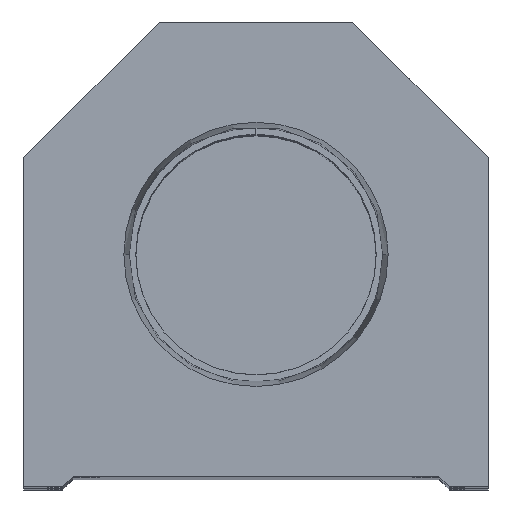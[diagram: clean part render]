
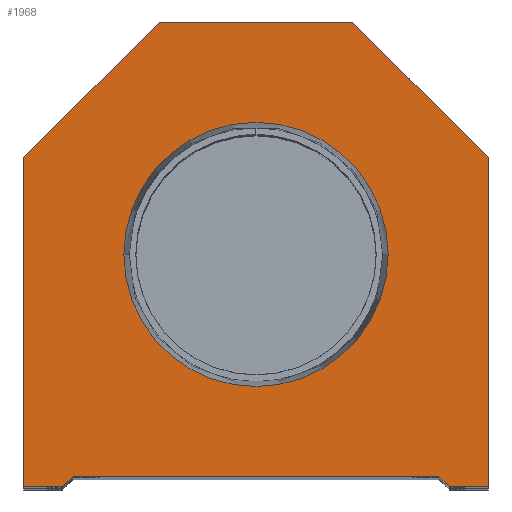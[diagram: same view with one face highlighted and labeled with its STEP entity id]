
A CAD part, top view. The second image highlights one B-rep face of the part: STEP entity #1968.
In plain terms, the highlighted planar face has unit normal (0, 0, 1).
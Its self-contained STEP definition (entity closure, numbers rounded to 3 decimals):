
#375 = LINE ( 'NONE', #10850, #8856 ) ;
#743 = CARTESIAN_POINT ( 'NONE',  ( -22.25, 31.5, 0. ) ) ;
#896 = DIRECTION ( 'NONE',  ( 1., 0., 0. ) ) ;
#1322 = EDGE_CURVE ( 'NONE', #1882, #2240, #3743, .T. ) ;
#1632 = EDGE_CURVE ( 'NONE', #2240, #1882, #15038, .T. ) ;
#1823 = EDGE_CURVE ( 'NONE', #4717, #6277, #10251, .T. ) ;
#1868 = EDGE_CURVE ( 'NONE', #7242, #13538, #375, .T. ) ;
#1882 = VERTEX_POINT ( 'NONE', #6867 ) ;
#1941 = LINE ( 'NONE', #15012, #15299 ) ;
#1955 = CARTESIAN_POINT ( 'NONE',  ( -9.25, 44.5, 0. ) ) ;
#1968 = ADVANCED_FACE ( 'NONE', ( #16328, #12441 ), #14736, .T. ) ;
#2240 = VERTEX_POINT ( 'NONE', #4300 ) ;
#2946 = DIRECTION ( 'NONE',  ( -1., 0., 0. ) ) ;
#3023 = CARTESIAN_POINT ( 'NONE',  ( -17.5, 1., 0. ) ) ;
#3508 = AXIS2_PLACEMENT_3D ( 'NONE', #4240, #8296, #8037 ) ;
#3743 = CIRCLE ( 'NONE', #6280, 12.647 ) ;
#4240 = CARTESIAN_POINT ( 'NONE',  ( 0., 0., 0. ) ) ;
#4300 = CARTESIAN_POINT ( 'NONE',  ( 12.647, 22.25, 0. ) ) ;
#4406 = CARTESIAN_POINT ( 'NONE',  ( 0., 22.25, 0. ) ) ;
#4441 = EDGE_LOOP ( 'NONE', ( #15684, #13220, #6502, #13196, #14832, #6776, #13710, #11531, #5178, #7523 ) ) ;
#4580 = LINE ( 'NONE', #7402, #8414 ) ;
#4717 = VERTEX_POINT ( 'NONE', #6604 ) ;
#4749 = DIRECTION ( 'NONE',  ( 0., 0., 1. ) ) ;
#5178 = ORIENTED_EDGE ( 'NONE', *, *, #14239, .T. ) ;
#5725 = EDGE_CURVE ( 'NONE', #7078, #5857, #4580, .T. ) ;
#5731 = AXIS2_PLACEMENT_3D ( 'NONE', #16825, #4749, #6395 ) ;
#5830 = EDGE_CURVE ( 'NONE', #6277, #12757, #6488, .T. ) ;
#5857 = VERTEX_POINT ( 'NONE', #14454 ) ;
#5989 = CARTESIAN_POINT ( 'NONE',  ( -18.5, 0., 0. ) ) ;
#6011 = LINE ( 'NONE', #743, #7105 ) ;
#6090 = DIRECTION ( 'NONE',  ( -0.707, -0.707, 0. ) ) ;
#6152 = CARTESIAN_POINT ( 'NONE',  ( 9.25, 44.5, 0. ) ) ;
#6208 = LINE ( 'NONE', #11596, #8818 ) ;
#6277 = VERTEX_POINT ( 'NONE', #9995 ) ;
#6280 = AXIS2_PLACEMENT_3D ( 'NONE', #4406, #12619, #9784 ) ;
#6395 = DIRECTION ( 'NONE',  ( 1., 0., 0. ) ) ;
#6488 = LINE ( 'NONE', #17278, #10937 ) ;
#6502 = ORIENTED_EDGE ( 'NONE', *, *, #10007, .T. ) ;
#6604 = CARTESIAN_POINT ( 'NONE',  ( 22.25, 0., 0. ) ) ;
#6776 = ORIENTED_EDGE ( 'NONE', *, *, #1823, .T. ) ;
#6867 = CARTESIAN_POINT ( 'NONE',  ( -12.647, 22.25, 0. ) ) ;
#7031 = VERTEX_POINT ( 'NONE', #1955 ) ;
#7072 = CARTESIAN_POINT ( 'NONE',  ( 9.25, 44.5, 0. ) ) ;
#7078 = VERTEX_POINT ( 'NONE', #9893 ) ;
#7105 = VECTOR ( 'NONE', #6090, 1000. ) ;
#7242 = VERTEX_POINT ( 'NONE', #13377 ) ;
#7354 = CARTESIAN_POINT ( 'NONE',  ( 22.25, 0., 0. ) ) ;
#7402 = CARTESIAN_POINT ( 'NONE',  ( 9.25, 9.25, 0. ) ) ;
#7523 = ORIENTED_EDGE ( 'NONE', *, *, #1868, .T. ) ;
#8037 = DIRECTION ( 'NONE',  ( 1., 0., 0. ) ) ;
#8296 = DIRECTION ( 'NONE',  ( 0., 0., 1. ) ) ;
#8400 = DIRECTION ( 'NONE',  ( 1., 0., 0. ) ) ;
#8414 = VECTOR ( 'NONE', #16921, 1000. ) ;
#8509 = VECTOR ( 'NONE', #2946, 1000. ) ;
#8725 = CARTESIAN_POINT ( 'NONE',  ( -17.5, 0., 0. ) ) ;
#8809 = VERTEX_POINT ( 'NONE', #5989 ) ;
#8818 = VECTOR ( 'NONE', #14071, 1000. ) ;
#8856 = VECTOR ( 'NONE', #16234, 1000. ) ;
#8957 = VECTOR ( 'NONE', #8400, 1000. ) ;
#9589 = EDGE_CURVE ( 'NONE', #13538, #8809, #15607, .T. ) ;
#9638 = LINE ( 'NONE', #7072, #8509 ) ;
#9784 = DIRECTION ( 'NONE',  ( 1., 0., 0. ) ) ;
#9893 = CARTESIAN_POINT ( 'NONE',  ( 17.5, 1., 0. ) ) ;
#9995 = CARTESIAN_POINT ( 'NONE',  ( 22.25, 31.5, 0. ) ) ;
#10007 = EDGE_CURVE ( 'NONE', #15957, #7078, #16430, .T. ) ;
#10251 = LINE ( 'NONE', #7354, #10517 ) ;
#10517 = VECTOR ( 'NONE', #12737, 1000. ) ;
#10850 = CARTESIAN_POINT ( 'NONE',  ( -22.25, 0., 0. ) ) ;
#10937 = VECTOR ( 'NONE', #14365, 1000. ) ;
#11340 = EDGE_LOOP ( 'NONE', ( #15339, #11594 ) ) ;
#11531 = ORIENTED_EDGE ( 'NONE', *, *, #14031, .T. ) ;
#11594 = ORIENTED_EDGE ( 'NONE', *, *, #1322, .F. ) ;
#11596 = CARTESIAN_POINT ( 'NONE',  ( 17.5, 0., 0. ) ) ;
#12089 = CARTESIAN_POINT ( 'NONE',  ( -17.5, 1., 0. ) ) ;
#12441 = FACE_OUTER_BOUND ( 'NONE', #4441, .T. ) ;
#12610 = VECTOR ( 'NONE', #896, 1000. ) ;
#12619 = DIRECTION ( 'NONE',  ( 0., 0., 1. ) ) ;
#12737 = DIRECTION ( 'NONE',  ( 0., 1., 0. ) ) ;
#12757 = VERTEX_POINT ( 'NONE', #6152 ) ;
#13196 = ORIENTED_EDGE ( 'NONE', *, *, #5725, .T. ) ;
#13220 = ORIENTED_EDGE ( 'NONE', *, *, #16049, .T. ) ;
#13377 = CARTESIAN_POINT ( 'NONE',  ( -22.25, 31.5, 0. ) ) ;
#13538 = VERTEX_POINT ( 'NONE', #14455 ) ;
#13710 = ORIENTED_EDGE ( 'NONE', *, *, #5830, .T. ) ;
#14031 = EDGE_CURVE ( 'NONE', #12757, #7031, #9638, .T. ) ;
#14071 = DIRECTION ( 'NONE',  ( 1., 0., 0. ) ) ;
#14239 = EDGE_CURVE ( 'NONE', #7031, #7242, #6011, .T. ) ;
#14365 = DIRECTION ( 'NONE',  ( -0.707, 0.707, 0. ) ) ;
#14454 = CARTESIAN_POINT ( 'NONE',  ( 18.5, 0., 0. ) ) ;
#14455 = CARTESIAN_POINT ( 'NONE',  ( -22.25, 0., 0. ) ) ;
#14736 = PLANE ( 'NONE',  #3508 ) ;
#14832 = ORIENTED_EDGE ( 'NONE', *, *, #15879, .T. ) ;
#15012 = CARTESIAN_POINT ( 'NONE',  ( -9.25, 9.25, 0. ) ) ;
#15038 = CIRCLE ( 'NONE', #5731, 12.647 ) ;
#15299 = VECTOR ( 'NONE', #15361, 1000. ) ;
#15339 = ORIENTED_EDGE ( 'NONE', *, *, #1632, .F. ) ;
#15361 = DIRECTION ( 'NONE',  ( 0.707, 0.707, 0. ) ) ;
#15607 = LINE ( 'NONE', #8725, #12610 ) ;
#15684 = ORIENTED_EDGE ( 'NONE', *, *, #9589, .T. ) ;
#15879 = EDGE_CURVE ( 'NONE', #5857, #4717, #6208, .T. ) ;
#15957 = VERTEX_POINT ( 'NONE', #12089 ) ;
#16049 = EDGE_CURVE ( 'NONE', #8809, #15957, #1941, .T. ) ;
#16234 = DIRECTION ( 'NONE',  ( 0., -1., 0. ) ) ;
#16328 = FACE_BOUND ( 'NONE', #11340, .T. ) ;
#16430 = LINE ( 'NONE', #3023, #8957 ) ;
#16825 = CARTESIAN_POINT ( 'NONE',  ( 0., 22.25, 0. ) ) ;
#16921 = DIRECTION ( 'NONE',  ( 0.707, -0.707, 0. ) ) ;
#17278 = CARTESIAN_POINT ( 'NONE',  ( 22.25, 31.5, 0. ) ) ;
